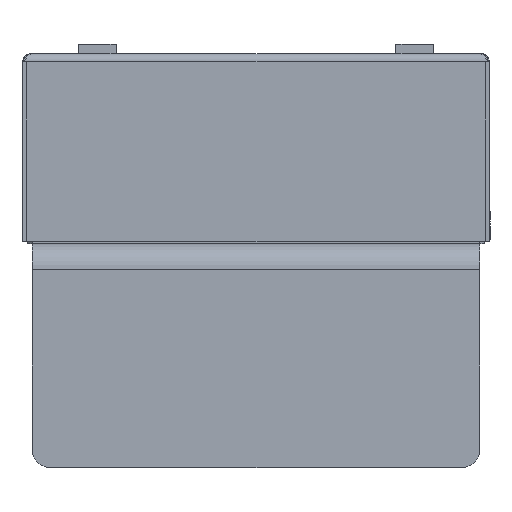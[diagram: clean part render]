
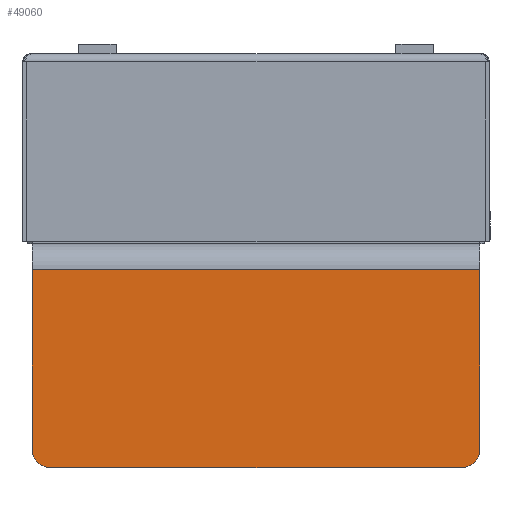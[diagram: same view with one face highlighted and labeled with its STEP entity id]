
A CAD part, front view. The second image highlights one B-rep face of the part: STEP entity #49060.
In plain terms, the highlighted planar face has unit normal (0, -1, 0).
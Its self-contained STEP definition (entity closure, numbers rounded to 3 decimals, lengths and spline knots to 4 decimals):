
#491 = PLANE ( 'NONE',  #43167 ) ;
#7524 = DIRECTION ( 'NONE',  ( 0., 0., 1. ) ) ;
#9680 = DIRECTION ( 'NONE',  ( 0., 0., 1. ) ) ;
#10756 = DIRECTION ( 'NONE',  ( -1., 0., 0. ) ) ;
#10900 = CARTESIAN_POINT ( 'NONE',  ( 3., -7.625, -2.898 ) ) ;
#12125 = VECTOR ( 'NONE', #10756, 39.3701 ) ;
#14038 = CARTESIAN_POINT ( 'NONE',  ( 3., -7.625, -2.898 ) ) ;
#14398 = CARTESIAN_POINT ( 'NONE',  ( -2.75, -7.625, -5.55 ) ) ;
#14721 = AXIS2_PLACEMENT_3D ( 'NONE', #99369, #98604, #75721 ) ;
#15797 = CARTESIAN_POINT ( 'NONE',  ( 3., -7.625, -2.55 ) ) ;
#17705 = DIRECTION ( 'NONE',  ( 1., 0., 0. ) ) ;
#20749 = CARTESIAN_POINT ( 'NONE',  ( 3., -7.625, -5.3 ) ) ;
#21675 = CIRCLE ( 'NONE', #104406, 0.25 ) ;
#21757 = FACE_OUTER_BOUND ( 'NONE', #62751, .T. ) ;
#22574 = EDGE_CURVE ( 'NONE', #34287, #33058, #55091, .T. ) ;
#24219 = LINE ( 'NONE', #10900, #12125 ) ;
#26074 = CARTESIAN_POINT ( 'NONE',  ( 2.75, -7.625, -5.55 ) ) ;
#26605 = ORIENTED_EDGE ( 'NONE', *, *, #89383, .F. ) ;
#28286 = VECTOR ( 'NONE', #9680, 39.3701 ) ;
#28401 = LINE ( 'NONE', #43641, #28286 ) ;
#32935 = ORIENTED_EDGE ( 'NONE', *, *, #73222, .T. ) ;
#33058 = VERTEX_POINT ( 'NONE', #14398 ) ;
#34287 = VERTEX_POINT ( 'NONE', #77654 ) ;
#35351 = VERTEX_POINT ( 'NONE', #26074 ) ;
#37537 = EDGE_CURVE ( 'NONE', #87331, #44585, #24219, .T. ) ;
#39031 = EDGE_CURVE ( 'NONE', #74886, #87331, #97757, .T. ) ;
#39855 = CARTESIAN_POINT ( 'NONE',  ( -3., -7.625, -5.55 ) ) ;
#43167 = AXIS2_PLACEMENT_3D ( 'NONE', #60279, #68959, #17705 ) ;
#43455 = CARTESIAN_POINT ( 'NONE',  ( 2.75, -7.625, -5.3 ) ) ;
#43641 = CARTESIAN_POINT ( 'NONE',  ( -3., -7.625, -2.55 ) ) ;
#44585 = VERTEX_POINT ( 'NONE', #65446 ) ;
#48475 = DIRECTION ( 'NONE',  ( 1., 0., 0. ) ) ;
#49060 = ADVANCED_FACE ( 'NONE', ( #21757 ), #491, .F. ) ;
#52073 = DIRECTION ( 'NONE',  ( 1., 0., 0. ) ) ;
#55091 = CIRCLE ( 'NONE', #14721, 0.25 ) ;
#60279 = CARTESIAN_POINT ( 'NONE',  ( -3., -7.625, -2.55 ) ) ;
#60777 = ORIENTED_EDGE ( 'NONE', *, *, #22574, .T. ) ;
#62751 = EDGE_LOOP ( 'NONE', ( #32935, #68688, #72520, #82480, #26605, #60777 ) ) ;
#65446 = CARTESIAN_POINT ( 'NONE',  ( -3., -7.625, -2.898 ) ) ;
#68688 = ORIENTED_EDGE ( 'NONE', *, *, #99897, .T. ) ;
#68959 = DIRECTION ( 'NONE',  ( 0., 1., 0. ) ) ;
#72520 = ORIENTED_EDGE ( 'NONE', *, *, #39031, .T. ) ;
#73222 = EDGE_CURVE ( 'NONE', #33058, #35351, #79537, .T. ) ;
#74886 = VERTEX_POINT ( 'NONE', #20749 ) ;
#75721 = DIRECTION ( 'NONE',  ( 1., 0., 0. ) ) ;
#77654 = CARTESIAN_POINT ( 'NONE',  ( -3., -7.625, -5.3 ) ) ;
#79537 = LINE ( 'NONE', #39855, #88917 ) ;
#82480 = ORIENTED_EDGE ( 'NONE', *, *, #37537, .T. ) ;
#87331 = VERTEX_POINT ( 'NONE', #14038 ) ;
#88917 = VECTOR ( 'NONE', #48475, 39.3701 ) ;
#89383 = EDGE_CURVE ( 'NONE', #34287, #44585, #28401, .T. ) ;
#97757 = LINE ( 'NONE', #15797, #106187 ) ;
#98604 = DIRECTION ( 'NONE',  ( 0., -1., 0. ) ) ;
#99369 = CARTESIAN_POINT ( 'NONE',  ( -2.75, -7.625, -5.3 ) ) ;
#99897 = EDGE_CURVE ( 'NONE', #35351, #74886, #21675, .T. ) ;
#103642 = DIRECTION ( 'NONE',  ( 0., -1., 0. ) ) ;
#104406 = AXIS2_PLACEMENT_3D ( 'NONE', #43455, #103642, #52073 ) ;
#106187 = VECTOR ( 'NONE', #7524, 39.3701 ) ;
